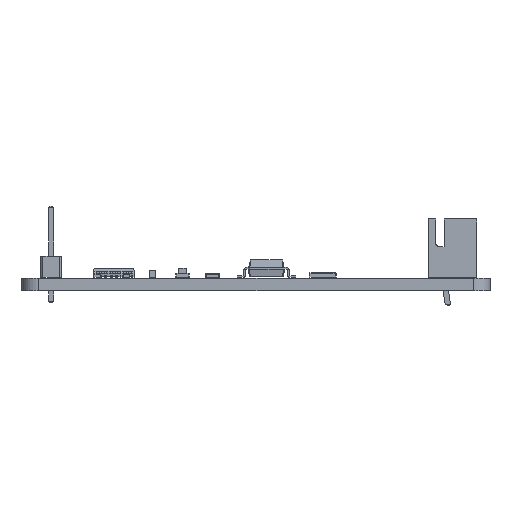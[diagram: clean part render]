
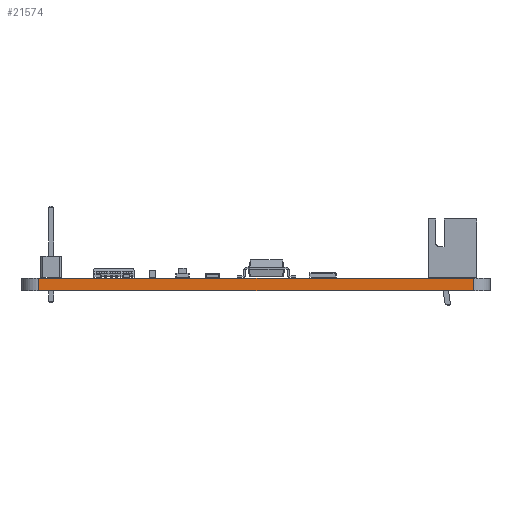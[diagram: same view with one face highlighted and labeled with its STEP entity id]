
A CAD part, left-side view. The second image highlights one B-rep face of the part: STEP entity #21574.
In plain terms, the highlighted planar face has unit normal (-1, 0, 0).
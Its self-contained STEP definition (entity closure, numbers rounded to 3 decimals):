
#20937 = VERTEX_POINT('',#20938);
#20938 = CARTESIAN_POINT('',(100.,-102.,0.));
#20945 = EDGE_CURVE('',#20946,#20937,#20948,.T.);
#20946 = VERTEX_POINT('',#20947);
#20947 = CARTESIAN_POINT('',(100.,-154.,0.));
#20948 = LINE('',#20949,#20950);
#20949 = CARTESIAN_POINT('',(100.,-154.,0.));
#20950 = VECTOR('',#20951,1.);
#20951 = DIRECTION('',(0.,1.,0.));
#21242 = VERTEX_POINT('',#21243);
#21243 = CARTESIAN_POINT('',(100.,-102.,1.51));
#21250 = EDGE_CURVE('',#21251,#21242,#21253,.T.);
#21251 = VERTEX_POINT('',#21252);
#21252 = CARTESIAN_POINT('',(100.,-154.,1.51));
#21253 = LINE('',#21254,#21255);
#21254 = CARTESIAN_POINT('',(100.,-154.,1.51));
#21255 = VECTOR('',#21256,1.);
#21256 = DIRECTION('',(0.,1.,0.));
#21544 = EDGE_CURVE('',#20937,#21242,#21545,.T.);
#21545 = LINE('',#21546,#21547);
#21546 = CARTESIAN_POINT('',(100.,-102.,0.));
#21547 = VECTOR('',#21548,1.);
#21548 = DIRECTION('',(0.,0.,1.));
#21574 = ADVANCED_FACE('',(#21575),#21586,.T.);
#21575 = FACE_BOUND('',#21576,.T.);
#21576 = EDGE_LOOP('',(#21577,#21583,#21584,#21585));
#21577 = ORIENTED_EDGE('',*,*,#21578,.T.);
#21578 = EDGE_CURVE('',#20946,#21251,#21579,.T.);
#21579 = LINE('',#21580,#21581);
#21580 = CARTESIAN_POINT('',(100.,-154.,0.));
#21581 = VECTOR('',#21582,1.);
#21582 = DIRECTION('',(0.,0.,1.));
#21583 = ORIENTED_EDGE('',*,*,#21250,.T.);
#21584 = ORIENTED_EDGE('',*,*,#21544,.F.);
#21585 = ORIENTED_EDGE('',*,*,#20945,.F.);
#21586 = PLANE('',#21587);
#21587 = AXIS2_PLACEMENT_3D('',#21588,#21589,#21590);
#21588 = CARTESIAN_POINT('',(100.,-154.,0.));
#21589 = DIRECTION('',(-1.,0.,0.));
#21590 = DIRECTION('',(0.,1.,0.));
